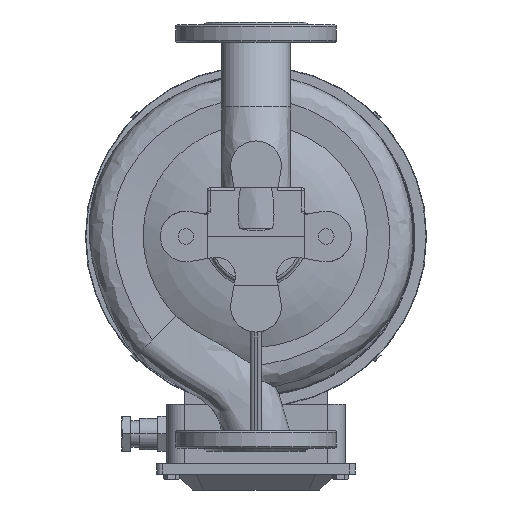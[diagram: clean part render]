
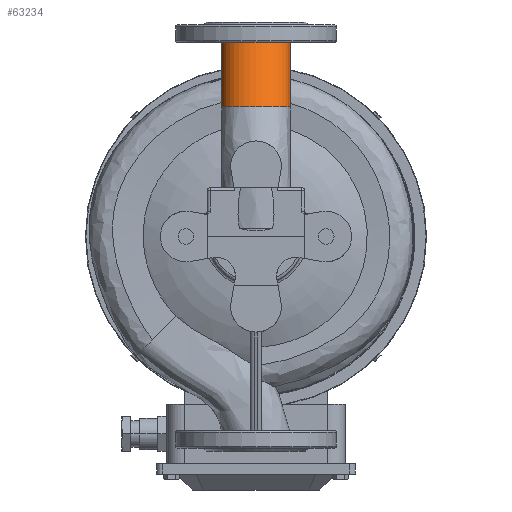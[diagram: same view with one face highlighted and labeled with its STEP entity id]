
A CAD part, front view. The second image highlights one B-rep face of the part: STEP entity #63234.
In plain terms, the highlighted free-form (B-spline) face has degree [3, 1] with [4, 2] control points.
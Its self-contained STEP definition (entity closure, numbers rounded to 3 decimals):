
#447 = CARTESIAN_POINT ( 'NONE',  ( 35., 0., 199. ) ) ;
#6167 = CARTESIAN_POINT ( 'NONE',  ( -35., -70., 199. ) ) ;
#7579 = EDGE_CURVE ( 'NONE', #58153, #42196, #62072, .T. ) ;
#11316 = CARTESIAN_POINT ( 'NONE',  ( 35., 0., 199. ) ) ;
#12588 = ORIENTED_EDGE ( 'NONE', *, *, #7579, .T. ) ;
#14097 = AXIS2_PLACEMENT_3D ( 'NONE', #30345, #51293, #35836 ) ;
#14206 = CARTESIAN_POINT ( 'NONE',  ( -35., 0., 199. ) ) ;
#14481 = B_SPLINE_CURVE_WITH_KNOTS ( 'NONE', 1,
 ( #67138, #14206 ),
 .UNSPECIFIED., .F., .F.,
 ( 2, 2 ),
 ( 0., 1. ),
 .UNSPECIFIED. ) ;
#16486 = CARTESIAN_POINT ( 'NONE',  ( 35., -116.303, 132.872 ) ) ;
#18499 = CARTESIAN_POINT ( 'NONE',  ( 35., 0., 199. ) ) ;
#20960 = CARTESIAN_POINT ( 'NONE',  ( -35., 0., 199. ) ) ;
#24770 = CARTESIAN_POINT ( 'NONE',  ( 0., 0., 199. ) ) ;
#30306 = EDGE_LOOP ( 'NONE', ( #66924, #12588, #55853, #44307 ) ) ;
#30345 = CARTESIAN_POINT ( 'NONE',  ( 0., -46.303, 132.872 ) ) ;
#32196 = AXIS2_PLACEMENT_3D ( 'NONE', #24770, #35412, #67050 ) ;
#33268 = CIRCLE ( 'NONE', #32196, 35. ) ;
#35412 = DIRECTION ( 'NONE',  ( 0., 0., -1. ) ) ;
#35836 = DIRECTION ( 'NONE',  ( -1., 0., 0. ) ) ;
#35898 = EDGE_CURVE ( 'NONE', #42196, #62741, #33268, .T. ) ;
#36993 = EDGE_CURVE ( 'NONE', #52527, #62741, #14481, .T. ) ;
#37439 = FACE_OUTER_BOUND ( 'NONE', #30306, .T. ) ;
#40311 = CARTESIAN_POINT ( 'NONE',  ( -35., 0., 199. ) ) ;
#42196 = VERTEX_POINT ( 'NONE', #18499 ) ;
#44307 = ORIENTED_EDGE ( 'NONE', *, *, #36993, .F. ) ;
#46532 = CARTESIAN_POINT ( 'NONE',  ( 35., -46.303, 132.872 ) ) ;
#48929 = CARTESIAN_POINT ( 'NONE',  ( -35., -46.303, 132.872 ) ) ;
#51097 = EDGE_CURVE ( 'NONE', #58153, #52527, #65715, .T. ) ;
#51293 = DIRECTION ( 'NONE',  ( 0., 0., -1. ) ) ;
#52527 = VERTEX_POINT ( 'NONE', #48929 ) ;
#53931 = CARTESIAN_POINT ( 'NONE',  ( -35., -46.303, 132.872 ) ) ;
#55069 = CARTESIAN_POINT ( 'NONE',  ( 35., -46.303, 132.872 ) ) ;
#55853 = ORIENTED_EDGE ( 'NONE', *, *, #35898, .T. ) ;
#56827 =( BOUNDED_SURFACE ( )  B_SPLINE_SURFACE ( 3, 1, ( 
 ( #63581, #11316 ),
 ( #16486, #64265 ),
 ( #58409, #6167 ),
 ( #53931, #20960 ) ),
 .UNSPECIFIED., .F., .F., .F. ) 
 B_SPLINE_SURFACE_WITH_KNOTS ( ( 4, 4 ),
 ( 2, 2 ),
 ( 0.5, 1. ),
 ( 0., 1. ),
 .UNSPECIFIED. ) 
 GEOMETRIC_REPRESENTATION_ITEM ( )  RATIONAL_B_SPLINE_SURFACE ( (
 ( 1., 1.),
 ( 0.333, 0.333),
 ( 0.333, 0.333),
 ( 1., 1.) ) ) 
 REPRESENTATION_ITEM ( '' )  SURFACE ( )  );
#58153 = VERTEX_POINT ( 'NONE', #55069 ) ;
#58409 = CARTESIAN_POINT ( 'NONE',  ( -35., -116.303, 132.872 ) ) ;
#62072 = B_SPLINE_CURVE_WITH_KNOTS ( 'NONE', 1,
 ( #46532, #447 ),
 .UNSPECIFIED., .F., .F.,
 ( 2, 2 ),
 ( 0., 1. ),
 .UNSPECIFIED. ) ;
#62741 = VERTEX_POINT ( 'NONE', #40311 ) ;
#63234 = ADVANCED_FACE ( 'NONE', ( #37439 ), #56827, .F. ) ;
#63581 = CARTESIAN_POINT ( 'NONE',  ( 35., -46.303, 132.872 ) ) ;
#64265 = CARTESIAN_POINT ( 'NONE',  ( 35., -70., 199. ) ) ;
#65715 = CIRCLE ( 'NONE', #14097, 35. ) ;
#66924 = ORIENTED_EDGE ( 'NONE', *, *, #51097, .F. ) ;
#67050 = DIRECTION ( 'NONE',  ( -1., 0., 0. ) ) ;
#67138 = CARTESIAN_POINT ( 'NONE',  ( -35., -46.303, 132.872 ) ) ;
